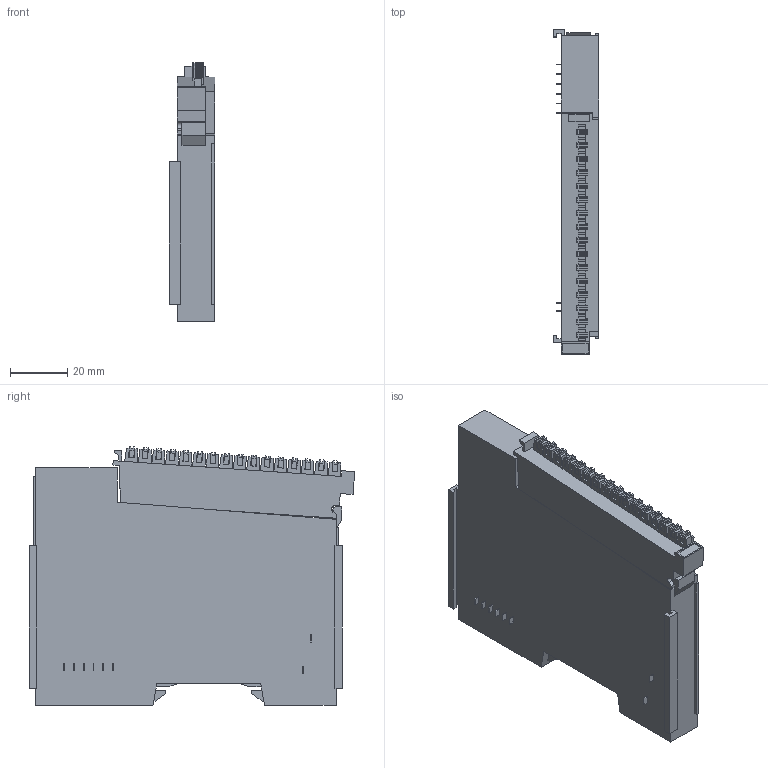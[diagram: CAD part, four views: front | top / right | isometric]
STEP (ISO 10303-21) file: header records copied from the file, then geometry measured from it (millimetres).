
FILE_DESCRIPTION((''),'2;1');
FILE_NAME('M-16DE_ASM','2021-07-21T16:38:46',('laptop'),(''),'CREO PARAMETRIC BY PTC INC, 2018500','CREO PARAMETRIC BY PTC INC, 2018500','');
FILE_SCHEMA(('CONFIG_CONTROL_DESIGN'));
Length unit declared in the file: millimetre
Products named in the file (6): I-O-MODULE-H_10_1; I-O-MODULE-H_10_2; I-O-MODULE-H_10_ASM; 8PINCONNECTOR_3; I-O-MODULE-DEVICE_ASM_10_ASM; M-16DE_ASM
Assembly tree (5 placements, depth 4):
  M-16DE_ASM
    I-O-MODULE-DEVICE_ASM_10_ASM
      I-O-MODULE-H_10_ASM
        I-O-MODULE-H_10_1
        I-O-MODULE-H_10_2
      8PINCONNECTOR_3
Bounding box: 16 x 113.69 x 90.43 mm (x, y, z)
Volume: 113393 mm3; surface area: 28523.7 mm2
Topology: 3 solids, 3 shells, 642 faces, 1729 edges, 1154 vertices
Faces by surface type: plane 640, cylinder 2
Entity records: 19862 total; most frequent: CARTESIAN_POINT 3540, ORIENTED_EDGE 3458, DIRECTION 3051, EDGE_CURVE 1729, VECTOR 1721, LINE 1721, VERTEX_POINT 1154, EDGE_LOOP 703
